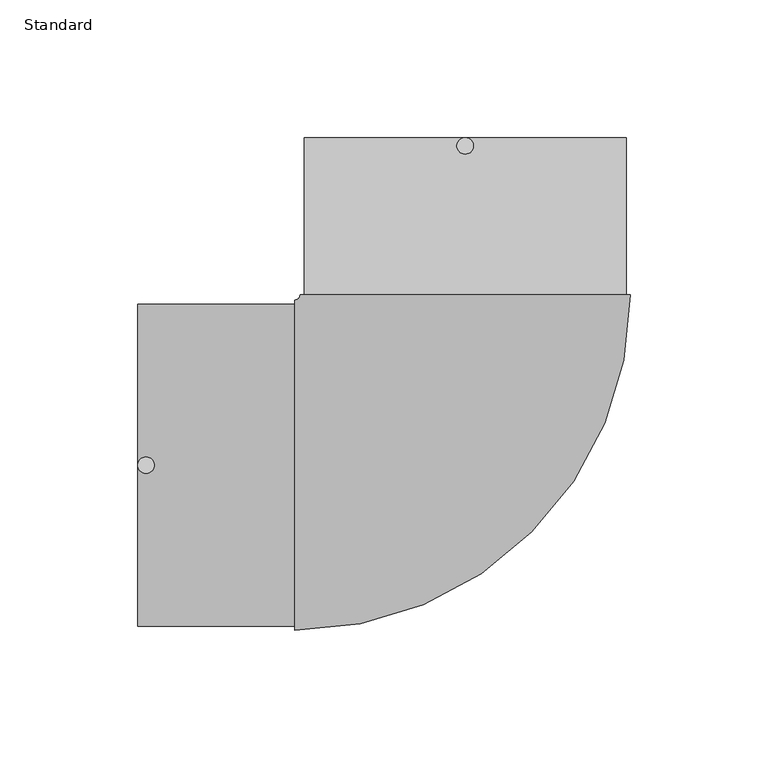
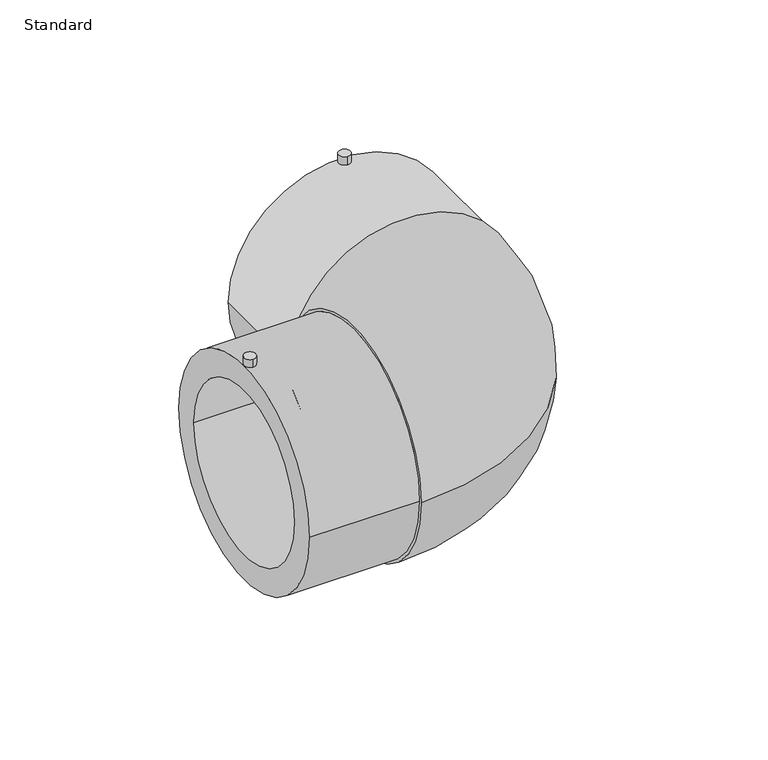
"""IFC4 building model written with IfcOpenShell, lengths in millimetres: pipe fitting geometry, EGB_VASEN_ PPR_Codo electrosoldable 90 WXRD200_Codo electrosoldable 45 WXRD220 : Standard."""

from ifc_helpers import new_model, si_unit, point, frame, frame_2d, origin, place, context, project, spatial, polyline, circle_curve, ellipse_curve, trimmed, segment, composite_curve, outline, extrude, source, transform, mapped, element, save
from ifc_brep_helpers import plane_surface, cylinder_surface, revolved_surface, advanced_brep


def standard_3c07460d(model_context):
    return source(origin(), model_context, "Body", "SolidModel", [
        advanced_brep(
        [(-119.0, -58.5, 0.0), (-119.0, 58.5, 0.0), (-119.0, -45.0, 0.0), (-119.0, 45.0, 0.0), (-62.0, -58.5, 0.0), (-62.0, 58.5, 0.0), (-62.0, -45.0, 0.0), (-62.0, 45.0, 0.0), (-62.0, -60.0, 0.0), (-62.0, 60.0, 0.0), (60.0, 62.0, 0.0), (-60.0, 62.0, 0.0), (58.5, 62.0, 0.0), (-58.5, 62.0, 0.0), (45.0, 62.0, 0.0), (-45.0, 62.0, 0.0), (58.5, 119.0, 0.0), (-58.5, 119.0, 0.0), (45.0, 119.0, 0.0), (-45.0, 119.0, 0.0)],
        [
            (0, 1, circle_curve(frame((-119.0, 0.0, 0.0), z_axis=(-1.0, 0.0, 0.0), x_axis=(0.0, 1.0, 0.0)), 58.5)),
            (1, 0, circle_curve(frame((-119.0, 0.0, 0.0), z_axis=(-1.0, 0.0, 0.0), x_axis=(0.0, 1.0, 0.0)), 58.5)),
            (2, 3, circle_curve(frame((-119.0, 0.0, 0.0), z_axis=(1.0, 0.0, 0.0), x_axis=(0.0, 1.0, 0.0)), 45.0)),
            (3, 2, circle_curve(frame((-119.0, 0.0, 0.0), z_axis=(1.0, 0.0, 0.0), x_axis=(0.0, 1.0, 0.0)), 45.0)),
            (0, 4),
            (4, 5, circle_curve(frame((-62.0, 0.0, 0.0), z_axis=(-1.0, 0.0, 0.0), x_axis=(0.0, 1.0, 0.0)), 58.5)),
            (5, 1),
            (5, 4, circle_curve(frame((-62.0, 0.0, 0.0), z_axis=(-1.0, 0.0, 0.0), x_axis=(0.0, 1.0, 0.0)), 58.5)),
            (2, 6),
            (6, 7, circle_curve(frame((-62.0, 0.0, 0.0), z_axis=(1.0, 0.0, 0.0), x_axis=(0.0, 1.0, 0.0)), 45.0)),
            (7, 3),
            (7, 6, circle_curve(frame((-62.0, 0.0, 0.0), z_axis=(1.0, 0.0, 0.0), x_axis=(0.0, 1.0, 0.0)), 45.0)),
            (8, 9, circle_curve(frame((-62.0, 0.0, 0.0), z_axis=(-1.0, 0.0, 0.0), x_axis=(0.0, 1.0, 0.0)), 60.0)),
            (9, 8, circle_curve(frame((-62.0, 0.0, 0.0), z_axis=(-1.0, 0.0, 0.0), x_axis=(0.0, 1.0, 0.0)), 60.0)),
            (10, 11, circle_curve(frame((0.0, 62.0, 0.0), z_axis=(0.0, 1.0, 0.0), x_axis=(-1.0, 0.0, 0.0)), 60.0)),
            (11, 10, circle_curve(frame((0.0, 62.0, 0.0), z_axis=(0.0, 1.0, 0.0), x_axis=(-1.0, 0.0, 0.0)), 60.0)),
            (12, 13, circle_curve(frame((0.0, 62.0, 0.0), z_axis=(0.0, -1.0, 0.0), x_axis=(-1.0, 0.0, 0.0)), 58.5)),
            (13, 12, circle_curve(frame((0.0, 62.0, 0.0), z_axis=(0.0, -1.0, 0.0), x_axis=(-1.0, 0.0, 0.0)), 58.5)),
            (14, 15, circle_curve(frame((0.0, 62.0, 0.0), z_axis=(0.0, 1.0, 0.0), x_axis=(-1.0, 0.0, 0.0)), 45.0)),
            (15, 14, circle_curve(frame((0.0, 62.0, 0.0), z_axis=(0.0, 1.0, 0.0), x_axis=(-1.0, 0.0, 0.0)), 45.0)),
            (8, 10, circle_curve(frame((-62.0, 62.0, 0.0), z_axis=(0.0, 0.0, 1.0), x_axis=(0.0, -1.0, 0.0)), 122.0)),
            (11, 9, circle_curve(frame((-62.0, 62.0, 0.0), z_axis=(0.0, 0.0, -1.0), x_axis=(0.0, -1.0, 0.0)), 2.0)),
            (16, 17, circle_curve(frame((0.0, 119.0, 0.0), z_axis=(0.0, 1.0, 0.0), x_axis=(-1.0, 0.0, 0.0)), 58.5)),
            (17, 16, circle_curve(frame((0.0, 119.0, 0.0), z_axis=(0.0, 1.0, 0.0), x_axis=(-1.0, 0.0, 0.0)), 58.5)),
            (18, 19, circle_curve(frame((0.0, 119.0, 0.0), z_axis=(0.0, -1.0, 0.0), x_axis=(-1.0, 0.0, 0.0)), 45.0)),
            (19, 18, circle_curve(frame((0.0, 119.0, 0.0), z_axis=(0.0, -1.0, 0.0), x_axis=(-1.0, 0.0, 0.0)), 45.0)),
            (17, 13),
            (12, 16),
            (19, 15),
            (14, 18),
        ],
        [
            plane_surface(frame((-119.0, 0.0, 0.0), z_axis=(-1.0, 0.0, 0.0), x_axis=(0.0, 0.0, 1.0))),
            cylinder_surface(frame((-119.0, 0.0, 0.0), z_axis=(-1.0, 0.0, 0.0), x_axis=(0.0, 1.0, 0.0)), 58.5),
            revolved_surface(polyline([(-62.0, 45.0, 0.0), (-119.0, 45.0, 0.0)]), (-119.0, 0.0, 0.0), (1.0, 0.0, 0.0)),
            plane_surface(frame((-62.0, 0.0, 0.0), z_axis=(-1.0, 0.0, 0.0), x_axis=(0.0, 0.0, 1.0))),
            plane_surface(frame((0.0, 62.0, 0.0), z_axis=(0.0, 1.0, 0.0), x_axis=(0.0, 0.0, 1.0))),
            revolved_surface(trimmed(ellipse_curve(frame((-62.0, 0.0, 0.0), z_axis=(-1.0, 0.0, 0.0), x_axis=(0.0, 1.0, 0.0)), 60.0, 60.0), [point((-62.0, -60.0, 0.0))], [point((-62.0, 60.0, 0.0))], True, "CARTESIAN"), (-62.0, 62.0, 0.0), (0.0, 0.0, 1.0)),
            revolved_surface(trimmed(ellipse_curve(frame((-62.0, 0.0, 0.0), z_axis=(-1.0, 0.0, 0.0), x_axis=(0.0, 1.0, 0.0)), 60.0, 60.0), [point((-62.0, 60.0, 0.0))], [point((-62.0, -60.0, 0.0))], True, "CARTESIAN"), (-62.0, 62.0, 0.0), (0.0, 0.0, 1.0)),
            plane_surface(frame((0.0, 119.0, 0.0), z_axis=(0.0, 1.0, 0.0), x_axis=(0.0, 0.0, 1.0))),
            cylinder_surface(frame((0.0, 62.0, 0.0), z_axis=(0.0, -1.0, 0.0), x_axis=(-1.0, 0.0, 0.0)), 58.5),
            revolved_surface(polyline([(-45.0, 119.0, 0.0), (-45.0, 62.0, 0.0)]), (0.0, 62.0, 0.0), (0.0, 1.0, 0.0)),
        ],
        [
            (0, [[1, 2], [3, 4]]),
            (1, [[-1, 5, 6, 7]]),
            (1, [[-2, -7, 8, -5]]),
            (2, [[-3, 9, 10, 11]]),
            (2, [[-4, -11, 12, -9]]),
            (3, [[-10, -12]]),
            (3, [[13, 14], [-6, -8]]),
            (4, [[15, 16], [17, 18]]),
            (4, [[19, 20]]),
            (5, [[-13, 21, -16, 22]]),
            (6, [[-14, -22, -15, -21]]),
            (7, [[23, 24], [25, 26]]),
            (8, [[-24, 27, -17, 28]]),
            (8, [[-23, -28, -18, -27]]),
            (9, [[-26, 29, -19, 30]]),
            (9, [[-25, -30, -20, -29]]),
        ],
    ),
        extrude(outline(composite_curve([segment(trimmed(circle_curve(frame_2d((0.0, 116.0)), 3.0), [point((0.0, 113.0))], [point((0.0, 119.0))], False, "CARTESIAN"), True, "CONTINUOUS"), segment(trimmed(circle_curve(frame_2d((0.0, 116.0)), 3.0), [point((0.0, 119.0))], [point((0.0, 113.0))], False, "CARTESIAN"), True, "CONTINUOUS")], self_intersect=False)), frame((0.0, 0.0, 46.0), z_axis=(0.0, 0.0, 1.0), x_axis=(1.0, 0.0, 0.0)), (0.0, 0.0, 1.0), 17.0),
        extrude(outline(composite_curve([segment(trimmed(circle_curve(frame_2d((-116.0, 0.0)), 3.0), [point((-116.0, -3.0))], [point((-116.0, 3.0))], False, "CARTESIAN"), True, "CONTINUOUS"), segment(trimmed(circle_curve(frame_2d((-116.0, 0.0)), 3.0), [point((-116.0, 3.0))], [point((-116.0, -3.0))], False, "CARTESIAN"), True, "CONTINUOUS")], self_intersect=False)), frame((0.0, 0.0, 46.0), z_axis=(0.0, 0.0, 1.0), x_axis=(1.0, 0.0, 0.0)), (0.0, 0.0, 1.0), 17.0),
    ])


if __name__ == "__main__":
    model = new_model("IFC4")
    model_context = context("Model", 3, world=origin())
    ifc_project = project(units=[si_unit("LENGTHUNIT", "METRE", prefix="MILLI")], contexts=[model_context])
    site = spatial("IfcSite", under=ifc_project)
    building = spatial("IfcBuilding", under=site)
    placement = place(None, origin())
    standard_shape = standard_3c07460d(model_context)
    element("IfcPipeFitting", 1, ObjectType="EGB_VASEN_ PPR_Codo electrosoldable 90 WXRD200_Codo electrosoldable 45 WXRD220 : Standard", at=placement, inside=building, context=model_context, shape_type="MappedRepresentation", body=[
        mapped(standard_shape, transform((0.0, 0.0, 0.0), x_axis=(1.0, 0.0, 0.0), y_axis=(0.0, 1.0, 0.0), z_axis=(0.0, 0.0, 1.0))),
    ])
    save(model, "model.ifc")
